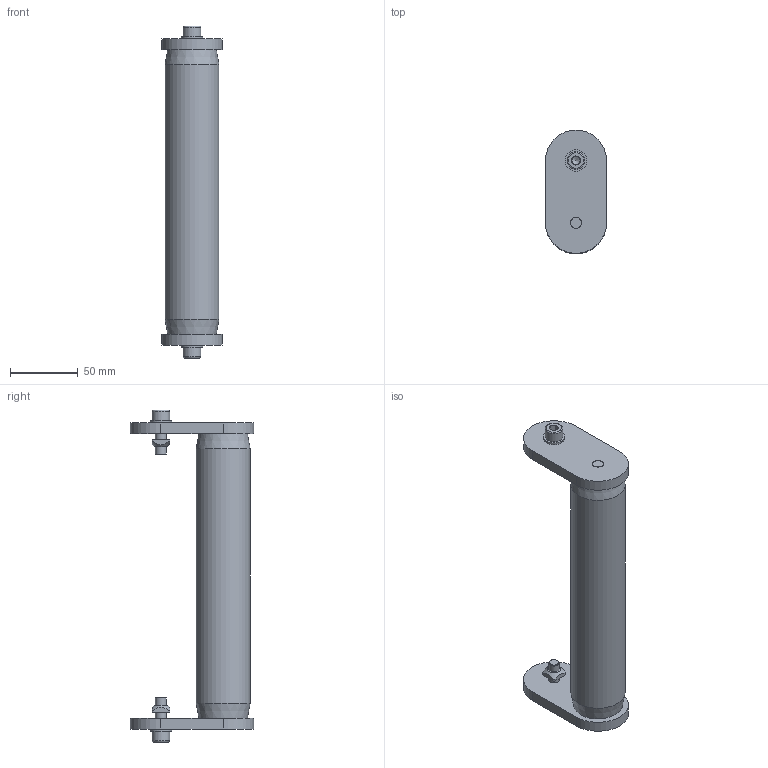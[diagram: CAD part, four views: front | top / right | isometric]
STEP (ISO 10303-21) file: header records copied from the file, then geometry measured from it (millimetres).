
FILE_DESCRIPTION (( 'STEP AP214' ), '1' );
FILE_NAME ('983-004-200.STEP', '2020-11-23T10:29:40', ( '' ), ( '' ), 'SwSTEP 2.0', 'SolidWorks 2020', '' );
FILE_SCHEMA (( 'AUTOMOTIVE_DESIGN' ));
Length unit declared in the file: millimetre
Products named in the file (8): 982-010-200; 983-004-200; RONDELLE_910-111; CHC THE_910-053H; 910-011; 982-009; CHC M8X25 + RP8; 983-003
Assembly tree (8 placements, depth 4):
  983-004-200
    983-003  x2
      982-009
      910-011
      CHC M8X25 + RP8
        CHC THE_910-053H
        RONDELLE_910-111
    982-010-200
Bounding box: 45 x 91 x 245.2 mm (x, y, z)
Volume: 324606.7 mm3; surface area: 52000.9 mm2
Topology: 9 solids, 9 shells, 119 faces, 261 edges, 166 vertices
Faces by surface type: plane 60, cylinder 33, cone 22, torus 4
Full cylindrical faces by diameter (mm): 6 x2, 6.8 x2, 7.98 x2, 8 x4, 8.4 x2, 8.5 x4, 13 x2, 16 x2, 40 x1
Entity records: 2038 total; most frequent: CARTESIAN_POINT 389, DIRECTION 312, ORIENTED_EDGE 228, AXIS2_PLACEMENT_3D 131, EDGE_CURVE 114, EDGE_LOOP 96, VERTEX_POINT 84, FACE_OUTER_BOUND 78
